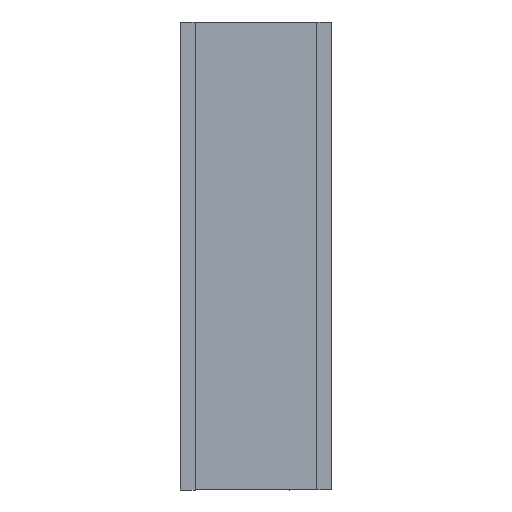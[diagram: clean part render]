
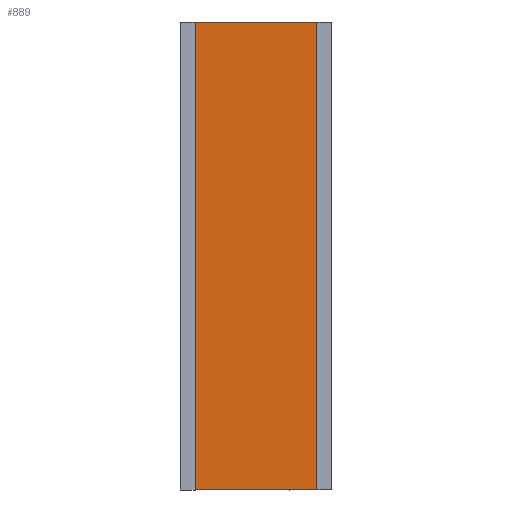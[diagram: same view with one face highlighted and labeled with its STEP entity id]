
A CAD part, front view. The second image highlights one B-rep face of the part: STEP entity #889.
In plain terms, the highlighted planar face has unit normal (0, -1, 0).
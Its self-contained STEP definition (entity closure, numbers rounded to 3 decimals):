
#2 = EDGE_CURVE ( 'NONE', #202, #676, #1090, .T. ) ;
#4 = VECTOR ( 'NONE', #939, 1000. ) ;
#5 = CARTESIAN_POINT ( 'NONE',  ( 0., 0., -250. ) ) ;
#28 = DIRECTION ( 'NONE',  ( 0., 0., -1. ) ) ;
#102 = VERTEX_POINT ( 'NONE', #994 ) ;
#116 = LINE ( 'NONE', #523, #4 ) ;
#121 = VECTOR ( 'NONE', #1033, 1000. ) ;
#172 = VECTOR ( 'NONE', #216, 1000. ) ;
#202 = VERTEX_POINT ( 'NONE', #699 ) ;
#206 = FACE_OUTER_BOUND ( 'NONE', #629, .T. ) ;
#216 = DIRECTION ( 'NONE',  ( 0., 0., 1. ) ) ;
#230 = PLANE ( 'NONE',  #306 ) ;
#306 = AXIS2_PLACEMENT_3D ( 'NONE', #5, #412, #28 ) ;
#373 = ORIENTED_EDGE ( 'NONE', *, *, #1260, .T. ) ;
#412 = DIRECTION ( 'NONE',  ( 0., -1., 0. ) ) ;
#473 = EDGE_CURVE ( 'NONE', #102, #683, #522, .T. ) ;
#522 = LINE ( 'NONE', #727, #121 ) ;
#523 = CARTESIAN_POINT ( 'NONE',  ( 11.575, 0., -250. ) ) ;
#600 = CARTESIAN_POINT ( 'NONE',  ( 76.575, 0., -250. ) ) ;
#629 = EDGE_LOOP ( 'NONE', ( #927, #1045, #373, #1118 ) ) ;
#676 = VERTEX_POINT ( 'NONE', #1343 ) ;
#683 = VERTEX_POINT ( 'NONE', #1001 ) ;
#699 = CARTESIAN_POINT ( 'NONE',  ( 11.575, 0., 0. ) ) ;
#727 = CARTESIAN_POINT ( 'NONE',  ( 0., 0., -250. ) ) ;
#780 = CARTESIAN_POINT ( 'NONE',  ( 0., 0., 0. ) ) ;
#839 = LINE ( 'NONE', #600, #172 ) ;
#889 = ADVANCED_FACE ( 'NONE', ( #206 ), #230, .T. ) ;
#927 = ORIENTED_EDGE ( 'NONE', *, *, #1311, .F. ) ;
#939 = DIRECTION ( 'NONE',  ( 0., 0., 1. ) ) ;
#994 = CARTESIAN_POINT ( 'NONE',  ( 11.575, 0., -250. ) ) ;
#1001 = CARTESIAN_POINT ( 'NONE',  ( 76.575, 0., -250. ) ) ;
#1033 = DIRECTION ( 'NONE',  ( 1., 0., 0. ) ) ;
#1045 = ORIENTED_EDGE ( 'NONE', *, *, #473, .T. ) ;
#1083 = DIRECTION ( 'NONE',  ( 1., 0., 0. ) ) ;
#1090 = LINE ( 'NONE', #780, #1187 ) ;
#1118 = ORIENTED_EDGE ( 'NONE', *, *, #2, .F. ) ;
#1187 = VECTOR ( 'NONE', #1083, 1000. ) ;
#1260 = EDGE_CURVE ( 'NONE', #683, #676, #839, .T. ) ;
#1311 = EDGE_CURVE ( 'NONE', #102, #202, #116, .T. ) ;
#1343 = CARTESIAN_POINT ( 'NONE',  ( 76.575, 0., 0. ) ) ;
